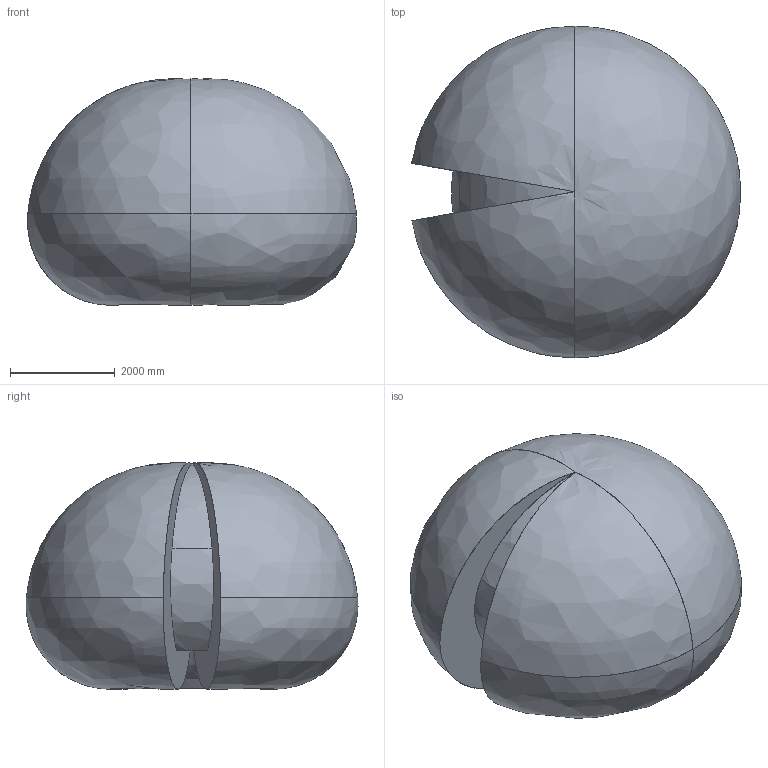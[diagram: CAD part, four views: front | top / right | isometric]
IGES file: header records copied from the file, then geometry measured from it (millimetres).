
Start section: SolidWorks IGES file using analytic representation for surfaces
Global section: file name: C:\Data\SAP_DOC\IRB6740_lightweight\6740\IRB6740-MH3_240kg-320_OC_01_SW_J\IRB6740-MH3_240kg-320_OC_01_IGES_J\IRB6740-MH3_240kg-320_OC_00_Working-space.igs; native system: SolidWorks 2024; preprocessor: SolidWorks 2024; author: SEJAOLS6; date: 260513.071625; units: millimetre
Bounding box: 6294.02 x 6350.31 x 4328.25 mm (x, y, z)
Surface area: 135173060.5 mm2 (no closed solid volume)
Topology: 0 solids, 0 shells, 18 faces, 424 edges, 416 vertices
Faces by surface type: bspline 18
